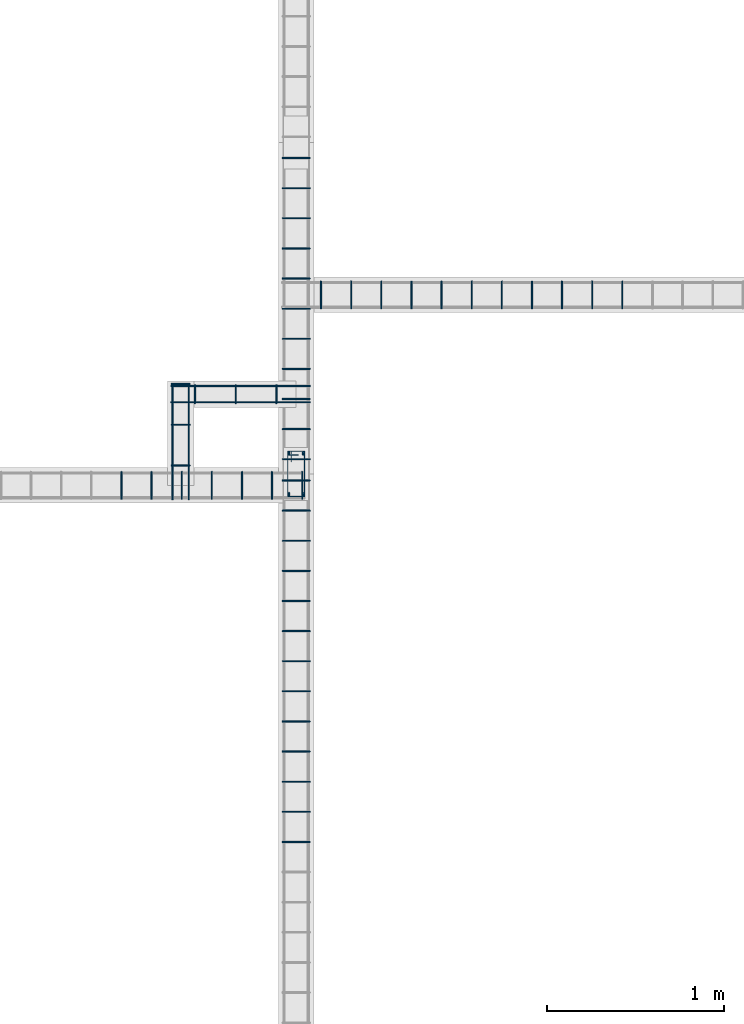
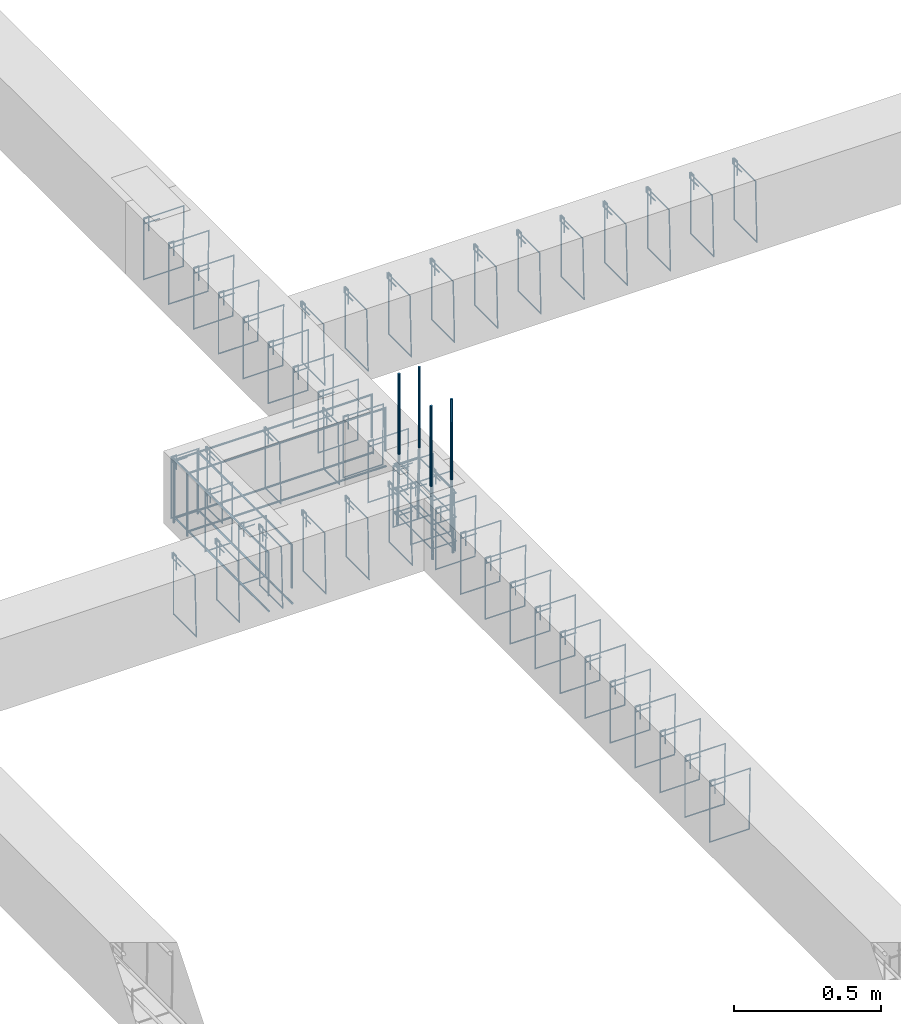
# One storey, part 58 of 150: 63 reinforcing bars.
"""IFC4 building model written with IfcOpenShell, lengths in centimetres."""

from ifc_helpers import new_model, entity, si_unit, derived_unit, frame, origin_with_axes, place, context, project, spatial, source, transform, mapped, element, save


model = new_model("IFC4")

# Units and contexts
model_context = context("Model", 3, precision=1e-05, world=origin_with_axes(), identifier="Body")
ifc_project = project(units=[si_unit("LENGTHUNIT", "METRE", prefix="CENTI"), si_unit("VOLUMEUNIT", "CUBIC_METRE"), si_unit("AREAUNIT", "SQUARE_METRE"), si_unit("POWERUNIT", "WATT"), si_unit("LUMINOUSFLUXUNIT", "LUMEN"), si_unit("ELECTRICCURRENTUNIT", "AMPERE"), si_unit("PRESSUREUNIT", "PASCAL", prefix="KILO"), si_unit("MASSUNIT", "GRAM", prefix="KILO"), si_unit("PLANEANGLEUNIT", "RADIAN"), derived_unit("VOLUMETRICFLOWRATEUNIT", [(si_unit("LENGTHUNIT", "METRE"), 3), (si_unit("TIMEUNIT", "SECOND"), -1)])], contexts=[model_context])

# Site, building, storey
site_placement = place(None, frame((-4000.0, 0.0, 0.0), z_axis=(0.0, 0.0, 1.0), x_axis=(1.0, 0.0, 0.0)))
site = spatial("IfcSite", under=ifc_project, at=site_placement, Name="PADRÃO")
building_placement = place(site_placement, frame((0.0, 0.0, -14.0)))
building = spatial("IfcBuilding", under=site, at=building_placement, Name="CRECHE PRÉ-ESCOLA TIPO 2")
placement = place(building_placement, origin_with_axes())
storey_placement = place(placement, frame((0.0, 0.0, 30.0), z_axis=(0.0, 0.0, 1.0), x_axis=(1.0, 0.0, 0.0)))
storey = spatial("IfcBuildingStorey", under=building, at=storey_placement, Name="VIGA BALDRAME", CompositionType="ELEMENT", Elevation=16.0)

# Reinforcing bars
shared_shape_1 = source(origin_with_axes(), model_context, "Body", "AdvancedSweptSolid", [
    entity("IfcSweptDiskSolid", entity("IfcCompositeCurve", [entity("IfcCompositeCurveSegment", "CONTINUOUS", True, entity("IfcPolyline", [entity("IfcCartesianPoint", [4.25, 21.75, 0.0]), entity("IfcCartesianPoint", [4.25, 27.75, 0.0])])), entity("IfcCompositeCurveSegment", "CONTINUOUS", True, entity("IfcPolyline", [entity("IfcCartesianPoint", [4.25, 27.75, 0.0]), entity("IfcCartesianPoint", [2.25, 27.75, 0.0])])), entity("IfcCompositeCurveSegment", "CONTINUOUS", True, entity("IfcPolyline", [entity("IfcCartesianPoint", [2.25, 27.75, 0.0]), entity("IfcCartesianPoint", [2.25, 2.25, 0.0])])), entity("IfcCompositeCurveSegment", "CONTINUOUS", True, entity("IfcPolyline", [entity("IfcCartesianPoint", [2.25, 2.25, 0.0]), entity("IfcCartesianPoint", [11.75, 2.25, 0.0])])), entity("IfcCompositeCurveSegment", "CONTINUOUS", True, entity("IfcPolyline", [entity("IfcCartesianPoint", [11.75, 2.25, 0.0]), entity("IfcCartesianPoint", [11.75, 27.75, -0.5])])), entity("IfcCompositeCurveSegment", "CONTINUOUS", True, entity("IfcPolyline", [entity("IfcCartesianPoint", [11.75, 27.75, -0.5]), entity("IfcCartesianPoint", [2.25, 27.75, -0.5])])), entity("IfcCompositeCurveSegment", "CONTINUOUS", True, entity("IfcPolyline", [entity("IfcCartesianPoint", [2.25, 27.75, -0.5]), entity("IfcCartesianPoint", [2.25, 25.75, -0.5])])), entity("IfcCompositeCurveSegment", "CONTINUOUS", True, entity("IfcPolyline", [entity("IfcCartesianPoint", [2.25, 25.75, -0.5]), entity("IfcCartesianPoint", [8.25, 25.75, -0.5])]))], False), 0.25),
])
for number, where, z_axis, x_axis, name in (
    (1, (496.69, 1806.5, -25.0), (0.0, 0.0, 1.0), (1.0, 0.0, 0.0), "P95 - Estribo"),
    (2, (496.69, 1806.5, -15.0), (0.0, 0.0, 1.0), (1.0, 0.0, 0.0), "P95 - Estribo"),
    (3, (496.69, 1806.5, -5.0), (0.0, 0.0, 1.0), (1.0, 0.0, 0.0), "P95 - Estribo"),
):
    element("IfcReinforcingBar", number, at=place(storey_placement, frame(where, z_axis=z_axis, x_axis=x_axis)), inside=storey, Name=name, BarLength=0.0, CrossSectionArea=1.9634954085e-05, NominalDiameter=0.5, PredefinedType="MAIN", context=model_context, shape_type="MappedRepresentation", body=[
        mapped(shared_shape_1, transform((0.0, 0.0, 0.0), scale=1.0)),
    ])
shared_shape_2 = source(origin_with_axes(), model_context, "Body", "AdvancedSweptSolid", [
    entity("IfcSweptDiskSolid", entity("IfcCompositeCurve", [entity("IfcCompositeCurveSegment", "CONTINUOUS", True, entity("IfcPolyline", [entity("IfcCartesianPoint", [2.0, -6.0, 0.0]), entity("IfcCartesianPoint", [2.0, 0.0, 0.0])])), entity("IfcCompositeCurveSegment", "CONTINUOUS", True, entity("IfcPolyline", [entity("IfcCartesianPoint", [2.0, 0.0, 0.0]), entity("IfcCartesianPoint", [0.0, 0.0, 0.0])])), entity("IfcCompositeCurveSegment", "CONTINUOUS", True, entity("IfcPolyline", [entity("IfcCartesianPoint", [0.0, 0.0, 0.0]), entity("IfcCartesianPoint", [0.0, -25.5, 0.0])])), entity("IfcCompositeCurveSegment", "CONTINUOUS", True, entity("IfcPolyline", [entity("IfcCartesianPoint", [0.0, -25.5, 0.0]), entity("IfcCartesianPoint", [15.5, -25.5, 0.0])])), entity("IfcCompositeCurveSegment", "CONTINUOUS", True, entity("IfcPolyline", [entity("IfcCartesianPoint", [15.5, -25.5, 0.0]), entity("IfcCartesianPoint", [15.5, 0.0, 0.5])])), entity("IfcCompositeCurveSegment", "CONTINUOUS", True, entity("IfcPolyline", [entity("IfcCartesianPoint", [15.5, 0.0, 0.5]), entity("IfcCartesianPoint", [0.0, 0.0, 0.5])])), entity("IfcCompositeCurveSegment", "CONTINUOUS", True, entity("IfcPolyline", [entity("IfcCartesianPoint", [0.0, 0.0, 0.5]), entity("IfcCartesianPoint", [0.0, -2.0, 0.5])])), entity("IfcCompositeCurveSegment", "CONTINUOUS", True, entity("IfcPolyline", [entity("IfcCartesianPoint", [0.0, -2.0, 0.5]), entity("IfcCartesianPoint", [6.0, -2.0, 0.5])]))], False), 0.25),
])
for number, where, z_axis, x_axis, name in (
    (4, (495.94, 1614.005, -2.25), (0.0, -1.0, 0.0), (1.0, 0.0, 0.0), "V171 - Estribo"),
    (5, (495.94, 1665.005, -2.25), (0.0, -1.0, 0.0), (1.0, 0.0, 0.0), "V171 - Estribo"),
    (6, (495.94, 1631.005, -2.25), (0.0, -1.0, 0.0), (1.0, 0.0, 0.0), "V171 - Estribo"),
    (7, (495.94, 1648.005, -2.25), (0.0, -1.0, 0.0), (1.0, 0.0, 0.0), "V171 - Estribo"),
    (8, (495.94, 1818.005, -2.25), (0.0, -1.0, 0.0), (1.0, 0.0, 0.0), "V171 - Estribo"),
    (9, (495.94, 1801.005, -2.25), (0.0, -1.0, 0.0), (1.0, 0.0, 0.0), "V171 - Estribo"),
    (10, (495.94, 1784.005, -2.25), (0.0, -1.0, 0.0), (1.0, 0.0, 0.0), "V171 - Estribo"),
    (11, (495.94, 1767.005, -2.25), (0.0, -1.0, 0.0), (1.0, 0.0, 0.0), "V171 - Estribo"),
    (12, (495.94, 1750.005, -2.25), (0.0, -1.0, 0.0), (1.0, 0.0, 0.0), "V171 - Estribo"),
    (13, (495.94, 1733.005, -2.25), (0.0, -1.0, 0.0), (1.0, 0.0, 0.0), "V171 - Estribo"),
    (14, (495.94, 1716.005, -2.25), (0.0, -1.0, 0.0), (1.0, 0.0, 0.0), "V171 - Estribo"),
    (15, (495.94, 1699.005, -2.25), (0.0, -1.0, 0.0), (1.0, 0.0, 0.0), "V171 - Estribo"),
    (16, (495.94, 1682.005, -2.25), (0.0, -1.0, 0.0), (1.0, 0.0, 0.0), "V171 - Estribo"),
):
    element("IfcReinforcingBar", number, at=place(storey_placement, frame(where, z_axis=z_axis, x_axis=x_axis)), inside=storey, Name=name, BarLength=0.0, CrossSectionArea=1.9634954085e-05, NominalDiameter=0.5, PredefinedType="MAIN", context=model_context, shape_type="MappedRepresentation", body=[
        mapped(shared_shape_2, transform((0.0, 0.0, 0.0), scale=1.0)),
    ])
shared_shape_3 = source(origin_with_axes(), model_context, "Body", "AdvancedSweptSolid", [
    entity("IfcSweptDiskSolid", entity("IfcCompositeCurve", [entity("IfcCompositeCurveSegment", "CONTINUOUS", True, entity("IfcPolyline", [entity("IfcCartesianPoint", [2.0, -6.0, 0.0]), entity("IfcCartesianPoint", [2.0, 0.0, 0.0])])), entity("IfcCompositeCurveSegment", "CONTINUOUS", True, entity("IfcPolyline", [entity("IfcCartesianPoint", [2.0, 0.0, 0.0]), entity("IfcCartesianPoint", [0.0, 0.0, 0.0])])), entity("IfcCompositeCurveSegment", "CONTINUOUS", True, entity("IfcPolyline", [entity("IfcCartesianPoint", [0.0, 0.0, 0.0]), entity("IfcCartesianPoint", [0.0, -25.5, 0.0])])), entity("IfcCompositeCurveSegment", "CONTINUOUS", True, entity("IfcPolyline", [entity("IfcCartesianPoint", [0.0, -25.5, 0.0]), entity("IfcCartesianPoint", [15.5, -25.5, 0.0])])), entity("IfcCompositeCurveSegment", "CONTINUOUS", True, entity("IfcPolyline", [entity("IfcCartesianPoint", [15.5, -25.5, 0.0]), entity("IfcCartesianPoint", [15.5, 0.0, 0.5])])), entity("IfcCompositeCurveSegment", "CONTINUOUS", True, entity("IfcPolyline", [entity("IfcCartesianPoint", [15.5, 0.0, 0.5]), entity("IfcCartesianPoint", [0.0, 0.0, 0.5])])), entity("IfcCompositeCurveSegment", "CONTINUOUS", True, entity("IfcPolyline", [entity("IfcCartesianPoint", [0.0, 0.0, 0.5]), entity("IfcCartesianPoint", [0.0, -2.0, 0.5])])), entity("IfcCompositeCurveSegment", "CONTINUOUS", True, entity("IfcPolyline", [entity("IfcCartesianPoint", [0.0, -2.0, 0.5]), entity("IfcCartesianPoint", [6.0, -2.0, 0.5])]))], False), 0.25),
])
for number, where, z_axis, x_axis, name in (
    (17, (495.94, 2000.0, -2.25), (0.0, -1.0, 0.0), (1.0, 0.0, 0.0), "V171 - Estribo"),
    (18, (495.94, 1983.0, -2.25), (0.0, -1.0, 0.0), (1.0, 0.0, 0.0), "V171 - Estribo"),
    (19, (495.94, 1966.0, -2.25), (0.0, -1.0, 0.0), (1.0, 0.0, 0.0), "V171 - Estribo"),
    (20, (495.94, 1949.0, -2.25), (0.0, -1.0, 0.0), (1.0, 0.0, 0.0), "V171 - Estribo"),
    (21, (495.94, 1932.0, -2.25), (0.0, -1.0, 0.0), (1.0, 0.0, 0.0), "V171 - Estribo"),
    (22, (495.94, 1915.0, -2.25), (0.0, -1.0, 0.0), (1.0, 0.0, 0.0), "V171 - Estribo"),
    (23, (495.94, 1898.0, -2.25), (0.0, -1.0, 0.0), (1.0, 0.0, 0.0), "V171 - Estribo"),
    (24, (495.94, 1881.0, -2.25), (0.0, -1.0, 0.0), (1.0, 0.0, 0.0), "V171 - Estribo"),
    (25, (495.94, 1864.0, -2.25), (0.0, -1.0, 0.0), (1.0, 0.0, 0.0), "V171 - Estribo"),
    (26, (495.94, 1847.0, -2.25), (0.0, -1.0, 0.0), (1.0, 0.0, 0.0), "V171 - Estribo"),
    (27, (495.94, 1830.0, -2.25), (0.0, -1.0, 0.0), (1.0, 0.0, 0.0), "V171 - Estribo"),
):
    element("IfcReinforcingBar", number, at=place(storey_placement, frame(where, z_axis=z_axis, x_axis=x_axis)), inside=storey, Name=name, BarLength=0.0, CrossSectionArea=1.9634954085e-05, NominalDiameter=0.5, PredefinedType="MAIN", context=model_context, shape_type="MappedRepresentation", body=[
        mapped(shared_shape_3, transform((0.0, 0.0, 0.0), scale=1.0)),
    ])
shared_shape_4 = source(origin_with_axes(), model_context, "Body", "AdvancedSweptSolid", [
    entity("IfcSweptDiskSolid", entity("IfcCompositeCurve", [entity("IfcCompositeCurveSegment", "CONTINUOUS", True, entity("IfcPolyline", [entity("IfcCartesianPoint", [2.0, -6.0, 0.0]), entity("IfcCartesianPoint", [2.0, 0.0, 0.0])])), entity("IfcCompositeCurveSegment", "CONTINUOUS", True, entity("IfcPolyline", [entity("IfcCartesianPoint", [2.0, 0.0, 0.0]), entity("IfcCartesianPoint", [0.0, 0.0, 0.0])])), entity("IfcCompositeCurveSegment", "CONTINUOUS", True, entity("IfcPolyline", [entity("IfcCartesianPoint", [0.0, 0.0, 0.0]), entity("IfcCartesianPoint", [0.0, -25.5, 0.0])])), entity("IfcCompositeCurveSegment", "CONTINUOUS", True, entity("IfcPolyline", [entity("IfcCartesianPoint", [0.0, -25.5, 0.0]), entity("IfcCartesianPoint", [15.5, -25.5, 0.0])])), entity("IfcCompositeCurveSegment", "CONTINUOUS", True, entity("IfcPolyline", [entity("IfcCartesianPoint", [15.5, -25.5, 0.0]), entity("IfcCartesianPoint", [15.5, 0.0, 0.5])])), entity("IfcCompositeCurveSegment", "CONTINUOUS", True, entity("IfcPolyline", [entity("IfcCartesianPoint", [15.5, 0.0, 0.5]), entity("IfcCartesianPoint", [0.0, 0.0, 0.5])])), entity("IfcCompositeCurveSegment", "CONTINUOUS", True, entity("IfcPolyline", [entity("IfcCartesianPoint", [0.0, 0.0, 0.5]), entity("IfcCartesianPoint", [0.0, -2.0, 0.5])])), entity("IfcCompositeCurveSegment", "CONTINUOUS", True, entity("IfcPolyline", [entity("IfcCartesianPoint", [0.0, -2.0, 0.5]), entity("IfcCartesianPoint", [6.0, -2.0, 0.5])]))], False), 0.25),
])
for number, where, z_axis, x_axis, name in (
    (28, (405.345, 1822.75, -2.25), (-1.0, 0.0, 0.0), (0.0, -1.0, 0.0), "V130 - Estribo"),
    (29, (422.345, 1822.75, -2.25), (-1.0, 0.0, 0.0), (0.0, -1.0, 0.0), "V130 - Estribo"),
    (30, (439.345, 1822.75, -2.25), (-1.0, 0.0, 0.0), (0.0, -1.0, 0.0), "V130 - Estribo"),
    (31, (456.345, 1822.75, -2.25), (-1.0, 0.0, 0.0), (0.0, -1.0, 0.0), "V130 - Estribo"),
    (32, (473.345, 1822.75, -2.25), (-1.0, 0.0, 0.0), (0.0, -1.0, 0.0), "V130 - Estribo"),
    (33, (490.345, 1822.75, -2.25), (-1.0, 0.0, 0.0), (0.0, -1.0, 0.0), "V130 - Estribo"),
    (34, (507.345, 1822.75, -2.25), (-1.0, 0.0, 0.0), (0.0, -1.0, 0.0), "V130 - Estribo"),
):
    element("IfcReinforcingBar", number, at=place(storey_placement, frame(where, z_axis=z_axis, x_axis=x_axis)), inside=storey, Name=name, BarLength=0.0, CrossSectionArea=1.9634954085e-05, NominalDiameter=0.5, PredefinedType="MAIN", context=model_context, shape_type="MappedRepresentation", body=[
        mapped(shared_shape_4, transform((0.0, 0.0, 0.0), scale=1.0)),
    ])
shared_shape_5 = source(origin_with_axes(), model_context, "Body", "AdvancedSweptSolid", [
    entity("IfcSweptDiskSolid", entity("IfcCompositeCurve", [entity("IfcCompositeCurveSegment", "CONTINUOUS", True, entity("IfcPolyline", [entity("IfcCartesianPoint", [2.0, -6.0, 0.0]), entity("IfcCartesianPoint", [2.0, 0.0, 0.0])])), entity("IfcCompositeCurveSegment", "CONTINUOUS", True, entity("IfcPolyline", [entity("IfcCartesianPoint", [2.0, 0.0, 0.0]), entity("IfcCartesianPoint", [0.0, 0.0, 0.0])])), entity("IfcCompositeCurveSegment", "CONTINUOUS", True, entity("IfcPolyline", [entity("IfcCartesianPoint", [0.0, 0.0, 0.0]), entity("IfcCartesianPoint", [0.0, -25.5, 0.0])])), entity("IfcCompositeCurveSegment", "CONTINUOUS", True, entity("IfcPolyline", [entity("IfcCartesianPoint", [0.0, -25.5, 0.0]), entity("IfcCartesianPoint", [10.5, -25.5, 0.0])])), entity("IfcCompositeCurveSegment", "CONTINUOUS", True, entity("IfcPolyline", [entity("IfcCartesianPoint", [10.5, -25.5, 0.0]), entity("IfcCartesianPoint", [10.5, 0.0, 0.5])])), entity("IfcCompositeCurveSegment", "CONTINUOUS", True, entity("IfcPolyline", [entity("IfcCartesianPoint", [10.5, 0.0, 0.5]), entity("IfcCartesianPoint", [0.0, 0.0, 0.5])])), entity("IfcCompositeCurveSegment", "CONTINUOUS", True, entity("IfcPolyline", [entity("IfcCartesianPoint", [0.0, 0.0, 0.5]), entity("IfcCartesianPoint", [0.0, -2.0, 0.5])])), entity("IfcCompositeCurveSegment", "CONTINUOUS", True, entity("IfcPolyline", [entity("IfcCartesianPoint", [0.0, -2.0, 0.5]), entity("IfcCartesianPoint", [6.0, -2.0, 0.5])]))], False), 0.25),
])
for number, where, z_axis, x_axis, name in (
    (35, (433.23, 1872.5, -2.25), (0.0, -1.0, 0.0), (1.0, 0.0, 0.0), "V169 - Estribo"),
    (36, (433.23, 1849.5, -2.25), (0.0, -1.0, 0.0), (1.0, 0.0, 0.0), "V169 - Estribo"),
    (37, (433.23, 1826.5, -2.25), (0.0, -1.0, 0.0), (1.0, 0.0, 0.0), "V169 - Estribo"),
):
    element("IfcReinforcingBar", number, at=place(storey_placement, frame(where, z_axis=z_axis, x_axis=x_axis)), inside=storey, Name=name, BarLength=0.0, CrossSectionArea=1.9634954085e-05, NominalDiameter=0.5, PredefinedType="MAIN", context=model_context, shape_type="MappedRepresentation", body=[
        mapped(shared_shape_5, transform((0.0, 0.0, 0.0), scale=1.0)),
    ])
shared_shape_6 = source(origin_with_axes(), model_context, "Body", "AdvancedSweptSolid", [
    entity("IfcSweptDiskSolid", entity("IfcCompositeCurve", [entity("IfcCompositeCurveSegment", "CONTINUOUS", True, entity("IfcPolyline", [entity("IfcCartesianPoint", [2.0, -6.0, 0.0]), entity("IfcCartesianPoint", [2.0, 0.0, 0.0])])), entity("IfcCompositeCurveSegment", "CONTINUOUS", True, entity("IfcPolyline", [entity("IfcCartesianPoint", [2.0, 0.0, 0.0]), entity("IfcCartesianPoint", [0.0, 0.0, 0.0])])), entity("IfcCompositeCurveSegment", "CONTINUOUS", True, entity("IfcPolyline", [entity("IfcCartesianPoint", [0.0, 0.0, 0.0]), entity("IfcCartesianPoint", [0.0, -25.5, 0.0])])), entity("IfcCompositeCurveSegment", "CONTINUOUS", True, entity("IfcPolyline", [entity("IfcCartesianPoint", [0.0, -25.5, 0.0]), entity("IfcCartesianPoint", [10.5, -25.5, 0.0])])), entity("IfcCompositeCurveSegment", "CONTINUOUS", True, entity("IfcPolyline", [entity("IfcCartesianPoint", [10.5, -25.5, 0.0]), entity("IfcCartesianPoint", [10.5, 0.0, 0.5])])), entity("IfcCompositeCurveSegment", "CONTINUOUS", True, entity("IfcPolyline", [entity("IfcCartesianPoint", [10.5, 0.0, 0.5]), entity("IfcCartesianPoint", [0.0, 0.0, 0.5])])), entity("IfcCompositeCurveSegment", "CONTINUOUS", True, entity("IfcPolyline", [entity("IfcCartesianPoint", [0.0, 0.0, 0.5]), entity("IfcCartesianPoint", [0.0, -2.0, 0.5])])), entity("IfcCompositeCurveSegment", "CONTINUOUS", True, entity("IfcPolyline", [entity("IfcCartesianPoint", [0.0, -2.0, 0.5]), entity("IfcCartesianPoint", [6.0, -2.0, 0.5])]))], False), 0.25),
])
for number, where, z_axis, x_axis, name in (
    (38, (446.835, 1871.75, -2.25), (-1.0, 0.0, 0.0), (0.0, -1.0, 0.0), "V129 - Estribo"),
    (39, (469.835, 1871.75, -2.25), (-1.0, 0.0, 0.0), (0.0, -1.0, 0.0), "V129 - Estribo"),
    (40, (492.835, 1871.75, -2.25), (-1.0, 0.0, 0.0), (0.0, -1.0, 0.0), "V129 - Estribo"),
):
    element("IfcReinforcingBar", number, at=place(storey_placement, frame(where, z_axis=z_axis, x_axis=x_axis)), inside=storey, Name=name, BarLength=0.0, CrossSectionArea=1.9634954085e-05, NominalDiameter=0.5, PredefinedType="MAIN", context=model_context, shape_type="MappedRepresentation", body=[
        mapped(shared_shape_6, transform((0.0, 0.0, 0.0), scale=1.0)),
    ])
shared_shape_7 = source(origin_with_axes(), model_context, "Body", "AdvancedSweptSolid", [
    entity("IfcSweptDiskSolid", entity("IfcCompositeCurve", [entity("IfcCompositeCurveSegment", "CONTINUOUS", True, entity("IfcPolyline", [entity("IfcCartesianPoint", [2.0, -6.0, 0.0]), entity("IfcCartesianPoint", [2.0, 0.0, 0.0])])), entity("IfcCompositeCurveSegment", "CONTINUOUS", True, entity("IfcPolyline", [entity("IfcCartesianPoint", [2.0, 0.0, 0.0]), entity("IfcCartesianPoint", [0.0, 0.0, 0.0])])), entity("IfcCompositeCurveSegment", "CONTINUOUS", True, entity("IfcPolyline", [entity("IfcCartesianPoint", [0.0, 0.0, 0.0]), entity("IfcCartesianPoint", [0.0, -25.5, 0.0])])), entity("IfcCompositeCurveSegment", "CONTINUOUS", True, entity("IfcPolyline", [entity("IfcCartesianPoint", [0.0, -25.5, 0.0]), entity("IfcCartesianPoint", [15.5, -25.5, 0.0])])), entity("IfcCompositeCurveSegment", "CONTINUOUS", True, entity("IfcPolyline", [entity("IfcCartesianPoint", [15.5, -25.5, 0.0]), entity("IfcCartesianPoint", [15.5, 0.0, 0.5])])), entity("IfcCompositeCurveSegment", "CONTINUOUS", True, entity("IfcPolyline", [entity("IfcCartesianPoint", [15.5, 0.0, 0.5]), entity("IfcCartesianPoint", [0.0, 0.0, 0.5])])), entity("IfcCompositeCurveSegment", "CONTINUOUS", True, entity("IfcPolyline", [entity("IfcCartesianPoint", [0.0, 0.0, 0.5]), entity("IfcCartesianPoint", [0.0, -2.0, 0.5])])), entity("IfcCompositeCurveSegment", "CONTINUOUS", True, entity("IfcPolyline", [entity("IfcCartesianPoint", [0.0, -2.0, 0.5]), entity("IfcCartesianPoint", [6.0, -2.0, 0.5])]))], False), 0.25),
])
for number, where, z_axis, x_axis, name in (
    (41, (688.04, 1930.25, -2.25), (-1.0, 0.0, 0.0), (0.0, -1.0, 0.0), "V125 - Estribo"),
    (42, (671.04, 1930.25, -2.25), (-1.0, 0.0, 0.0), (0.0, -1.0, 0.0), "V125 - Estribo"),
    (43, (654.04, 1930.25, -2.25), (-1.0, 0.0, 0.0), (0.0, -1.0, 0.0), "V125 - Estribo"),
    (44, (637.04, 1930.25, -2.25), (-1.0, 0.0, 0.0), (0.0, -1.0, 0.0), "V125 - Estribo"),
    (45, (620.04, 1930.25, -2.25), (-1.0, 0.0, 0.0), (0.0, -1.0, 0.0), "V125 - Estribo"),
    (46, (603.04, 1930.25, -2.25), (-1.0, 0.0, 0.0), (0.0, -1.0, 0.0), "V125 - Estribo"),
    (47, (586.04, 1930.25, -2.25), (-1.0, 0.0, 0.0), (0.0, -1.0, 0.0), "V125 - Estribo"),
    (48, (569.04, 1930.25, -2.25), (-1.0, 0.0, 0.0), (0.0, -1.0, 0.0), "V125 - Estribo"),
    (49, (552.04, 1930.25, -2.25), (-1.0, 0.0, 0.0), (0.0, -1.0, 0.0), "V125 - Estribo"),
    (50, (535.04, 1930.25, -2.25), (-1.0, 0.0, 0.0), (0.0, -1.0, 0.0), "V125 - Estribo"),
    (51, (518.04, 1930.25, -2.25), (-1.0, 0.0, 0.0), (0.0, -1.0, 0.0), "V125 - Estribo"),
):
    element("IfcReinforcingBar", number, at=place(storey_placement, frame(where, z_axis=z_axis, x_axis=x_axis)), inside=storey, Name=name, BarLength=0.0, CrossSectionArea=1.9634954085e-05, NominalDiameter=0.5, PredefinedType="MAIN", context=model_context, shape_type="MappedRepresentation", body=[
        mapped(shared_shape_7, transform((0.0, 0.0, 0.0), scale=1.0)),
    ])
for number, where, z_axis, x_axis, name in (
    (52, (499.69, 1810.00013877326, 33.3573001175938), (0.0, 0.0, 1.0), (1.0, 0.0, 0.0), "P95 - Longitudinal"),
    (53, (507.69, 1810.00013877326, 33.3573001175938), (0.0, 0.0, 1.0), (1.0, 0.0, 0.0), "P95 - Longitudinal"),
):
    element("IfcReinforcingBar", number, at=place(storey_placement, frame(where, z_axis=z_axis, x_axis=x_axis)), inside=storey, Name=name, BarLength=0.0, CrossSectionArea=7.853981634e-05, NominalDiameter=1.0, PredefinedType="MAIN", context=model_context, shape_type="AdvancedSweptSolid", body=[
        entity("IfcSweptDiskSolid", entity("IfcCompositeCurve", [entity("IfcCompositeCurveSegment", "CONTINUOUS", True, entity("IfcPolyline", [entity("IfcCartesianPoint", [0.0, -0.50013877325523, -63.3573001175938]), entity("IfcCartesianPoint", [0.0, 0.49986122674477, -33.3573001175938])])), entity("IfcCompositeCurveSegment", "CONTINUOUS", True, entity("IfcPolyline", [entity("IfcCartesianPoint", [0.0, 0.49986122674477, -33.3573001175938]), entity("IfcCartesianPoint", [0.0, 0.49986122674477, 0.0])]))], False), 0.5),
    ])
for number, where, z_axis, x_axis, name in (
    (54, (507.69, 1832.99986122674, 33.3573001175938), (0.0, 0.0, 1.0), (1.0, 0.0, 0.0), "P95 - Longitudinal"),
    (55, (499.69, 1832.99986122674, 33.3573001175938), (0.0, 0.0, 1.0), (1.0, 0.0, 0.0), "P95 - Longitudinal"),
):
    element("IfcReinforcingBar", number, at=place(storey_placement, frame(where, z_axis=z_axis, x_axis=x_axis)), inside=storey, Name=name, BarLength=0.0, CrossSectionArea=7.853981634e-05, NominalDiameter=1.0, PredefinedType="MAIN", context=model_context, shape_type="AdvancedSweptSolid", body=[
        entity("IfcSweptDiskSolid", entity("IfcCompositeCurve", [entity("IfcCompositeCurveSegment", "CONTINUOUS", True, entity("IfcPolyline", [entity("IfcCartesianPoint", [0.0, 0.50013877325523, -63.3573001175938]), entity("IfcCartesianPoint", [0.0, -0.49986122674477, -33.3573001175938])])), entity("IfcCompositeCurveSegment", "CONTINUOUS", True, entity("IfcPolyline", [entity("IfcCartesianPoint", [0.0, -0.49986122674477, -33.3573001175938]), entity("IfcCartesianPoint", [0.0, -0.49986122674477, 0.0])]))], False), 0.5),
    ])
for number, where, z_axis, x_axis, name in (
    (56, (472.333124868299, 1861.9, -17.1), (0.0, 0.0, 1.0), (1.0, 0.0, 0.0), "V129 - Longitudinal inferior"),
    (57, (472.333124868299, 1871.1, -17.1), (0.0, 0.0, 1.0), (1.0, 0.0, 0.0), "V129 - Longitudinal inferior"),
):
    element("IfcReinforcingBar", number, at=place(storey_placement, frame(where, z_axis=z_axis, x_axis=x_axis)), inside=storey, Name=name, BarLength=0.0, CrossSectionArea=5.0265482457e-05, NominalDiameter=0.8, PredefinedType="MAIN", context=model_context, shape_type="AdvancedSweptSolid", body=[
        entity("IfcSweptDiskSolid", entity("IfcCompositeCurve", [entity("IfcCompositeCurveSegment", "CONTINUOUS", True, entity("IfcPolyline", [entity("IfcCartesianPoint", [-38.9531248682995, 0.0, 0.0]), entity("IfcCartesianPoint", [-38.9531248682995, 0.0, -10.0])])), entity("IfcCompositeCurveSegment", "CONTINUOUS", True, entity("IfcPolyline", [entity("IfcCartesianPoint", [-38.9531248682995, 0.0, -10.0]), entity("IfcCartesianPoint", [39.3568751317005, 0.0, -10.0])]))], False), 0.4),
    ])
for number, where, z_axis, x_axis, name in (
    (58, (472.335, 1861.9, -2.49624973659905), (0.0, 0.0, 1.0), (1.0, 0.0, 0.0), "V129 - Longitudinal superior"),
    (59, (472.335, 1871.1, -2.49624973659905), (0.0, 0.0, 1.0), (1.0, 0.0, 0.0), "V129 - Longitudinal superior"),
):
    element("IfcReinforcingBar", number, at=place(storey_placement, frame(where, z_axis=z_axis, x_axis=x_axis)), inside=storey, Name=name, BarLength=0.0, CrossSectionArea=5.0265482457e-05, NominalDiameter=0.8, PredefinedType="MAIN", context=model_context, shape_type="AdvancedSweptSolid", body=[
        entity("IfcSweptDiskSolid", entity("IfcCompositeCurve", [entity("IfcCompositeCurveSegment", "CONTINUOUS", True, entity("IfcPolyline", [entity("IfcCartesianPoint", [-38.955, 0.0, -26.403750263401]), entity("IfcCartesianPoint", [-38.955, 0.0, -0.403750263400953])])), entity("IfcCompositeCurveSegment", "CONTINUOUS", True, entity("IfcPolyline", [entity("IfcCartesianPoint", [-38.955, 0.0, -0.403750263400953]), entity("IfcCartesianPoint", [38.955, 0.0, -0.403750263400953])])), entity("IfcCompositeCurveSegment", "CONTINUOUS", True, entity("IfcPolyline", [entity("IfcCartesianPoint", [38.955, 0.0, -0.403750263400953]), entity("IfcCartesianPoint", [38.955, 0.0, -18.3215550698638])]))], False), 0.4),
    ])
for number, where, z_axis, x_axis, name in (
    (60, (433.88, 1839.5018751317, -9.18219519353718), (0.0, 0.0, 1.0), (1.0, 0.0, 0.0), "V169 - Longitudinal inferior"),
    (61, (443.08, 1839.5018751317, -9.18219519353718), (0.0, 0.0, 1.0), (1.0, 0.0, 0.0), "V169 - Longitudinal inferior"),
):
    element("IfcReinforcingBar", number, at=place(storey_placement, frame(where, z_axis=z_axis, x_axis=x_axis)), inside=storey, Name=name, BarLength=0.0, CrossSectionArea=5.0265482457e-05, NominalDiameter=0.8, PredefinedType="MAIN", context=model_context, shape_type="AdvancedSweptSolid", body=[
        entity("IfcSweptDiskSolid", entity("IfcCompositeCurve", [entity("IfcCompositeCurveSegment", "CONTINUOUS", True, entity("IfcPolyline", [entity("IfcCartesianPoint", [0.0, -32.5018751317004, -17.9178048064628]), entity("IfcCartesianPoint", [0.0, 32.0981248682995, -17.9178048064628])])), entity("IfcCompositeCurveSegment", "CONTINUOUS", True, entity("IfcPolyline", [entity("IfcCartesianPoint", [0.0, 32.0981248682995, -17.9178048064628]), entity("IfcCartesianPoint", [0.0, 32.0981248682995, 0.0])]))], False), 0.4),
    ])
for number, where, z_axis, x_axis, name in (
    (62, (433.88, 1839.5, -2.49624973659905), (0.0, 0.0, 1.0), (1.0, 0.0, 0.0), "V169 - Longitudinal superior"),
    (63, (443.08, 1839.5, -2.49624973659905), (0.0, 0.0, 1.0), (1.0, 0.0, 0.0), "V169 - Longitudinal superior"),
):
    element("IfcReinforcingBar", number, at=place(storey_placement, frame(where, z_axis=z_axis, x_axis=x_axis)), inside=storey, Name=name, BarLength=0.0, CrossSectionArea=5.0265482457e-05, NominalDiameter=0.8, PredefinedType="MAIN", context=model_context, shape_type="AdvancedSweptSolid", body=[
        entity("IfcSweptDiskSolid", entity("IfcCompositeCurve", [entity("IfcCompositeCurveSegment", "CONTINUOUS", True, entity("IfcPolyline", [entity("IfcCartesianPoint", [0.0, -32.1, -18.3215550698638]), entity("IfcCartesianPoint", [0.0, -32.1, -0.403750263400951])])), entity("IfcCompositeCurveSegment", "CONTINUOUS", True, entity("IfcPolyline", [entity("IfcCartesianPoint", [0.0, -32.1, -0.403750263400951]), entity("IfcCartesianPoint", [0.0, 32.1, -0.403750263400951])])), entity("IfcCompositeCurveSegment", "CONTINUOUS", True, entity("IfcPolyline", [entity("IfcCartesianPoint", [0.0, 32.1, -0.403750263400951]), entity("IfcCartesianPoint", [0.0, 32.1, -26.403750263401])]))], False), 0.4),
    ])

save(model, "model.ifc")
